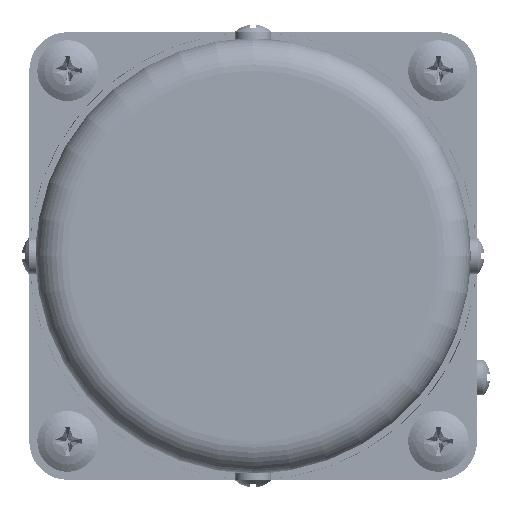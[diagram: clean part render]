
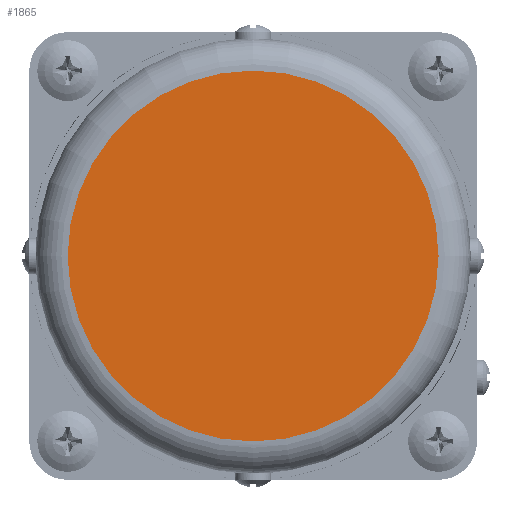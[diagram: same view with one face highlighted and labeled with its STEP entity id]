
A CAD part, left-side view. The second image highlights one B-rep face of the part: STEP entity #1865.
In plain terms, the highlighted planar face has unit normal (-1, 0, 0).
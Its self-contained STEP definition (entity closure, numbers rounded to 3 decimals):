
#1167=FACE_OUTER_BOUND('',#2546,.T.);
#1591=PLANE('',#6385);
#1865=ADVANCED_FACE('',(#1167),#1591,.T.);
#2546=EDGE_LOOP('',(#3567));
#3567=ORIENTED_EDGE('',*,*,#5341,.T.);
#4662=VERTEX_POINT('',#10084);
#5341=EDGE_CURVE('',#4662,#4662,#5902,.T.);
#5902=CIRCLE('',#6384,29.);
#6384=AXIS2_PLACEMENT_3D('',#10083,#7281,#7282);
#6385=AXIS2_PLACEMENT_3D('',#10085,#7283,#7284);
#7281=DIRECTION('',(-1.,0.,0.));
#7282=DIRECTION('',(0.,0.,-1.));
#7283=DIRECTION('',(-1.,0.,0.));
#7284=DIRECTION('',(0.,0.,-1.));
#10083=CARTESIAN_POINT('',(-146.,0.,0.));
#10084=CARTESIAN_POINT('',(-146.,0.,-29.));
#10085=CARTESIAN_POINT('',(-146.,0.,0.));
